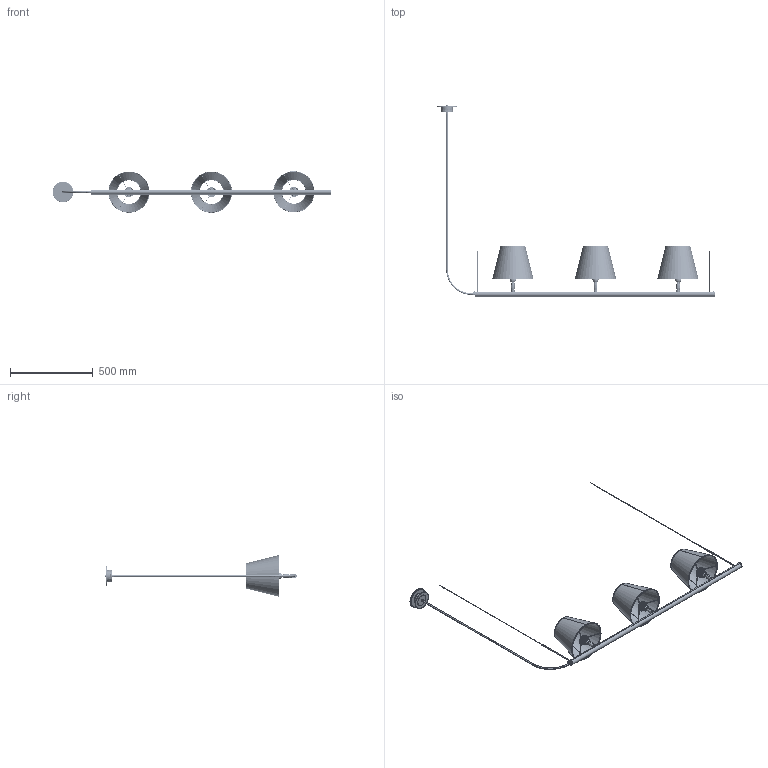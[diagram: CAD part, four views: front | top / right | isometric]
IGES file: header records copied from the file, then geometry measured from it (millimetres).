
Start section: SolidWorks IGES file using analytic representation for surfaces
Global section: file name: C:\Users\berta.gumma\OneDrive - santa &cole\Desktop\Sistema fonda M1 UL.IGS; native system: SolidWorks 2021; preprocessor: SolidWorks 2021; author: berta.gumma; date: 230913.113708; units: millimetre
Bounding box: 1687.6 x 1266.38 x 251.83 mm (x, y, z)
Surface area: 1358361.6 mm2 (no closed solid volume)
Topology: 0 solids, 0 shells, 1531 faces, 22581 edges, 22577 vertices
Faces by surface type: revolution 950, bspline 581
